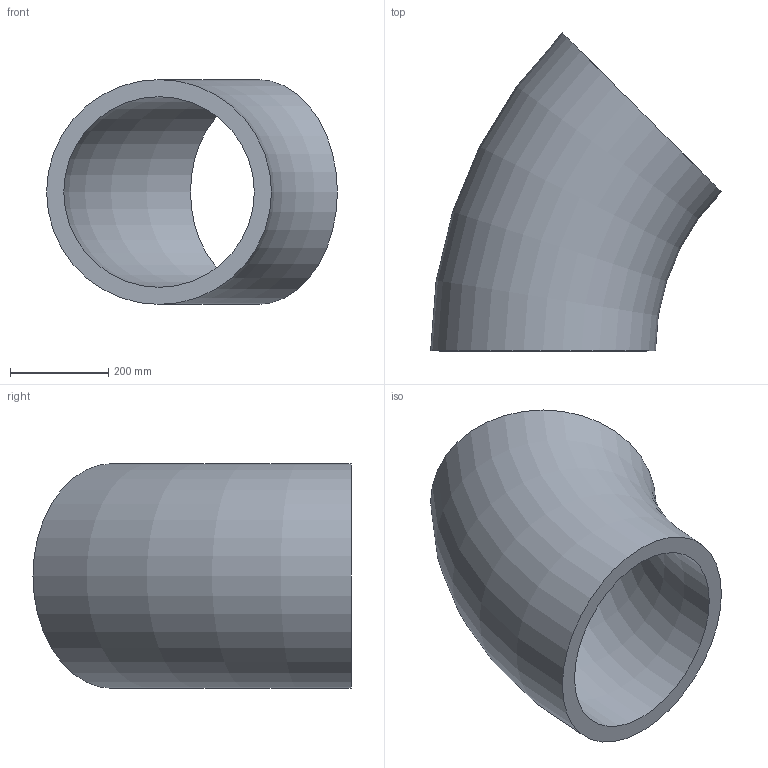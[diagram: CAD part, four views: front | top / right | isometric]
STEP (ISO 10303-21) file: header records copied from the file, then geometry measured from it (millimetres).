
FILE_DESCRIPTION(/* description */ (''),/* implementation_level */ '2;1');
FILE_NAME(/* name */ 'C:\Users\D\Documents\Inventor\HP\JIS\配管\エルボ ロング 45°\Sch120\Elbow45-long-450A-Sch120.stp',/* time_stamp */ '2022-06-08T17:04:43+09:00',/* author */ ('D'),/* organization */ (''),/* preprocessor_version */ 'ST-DEVELOPER v18',/* originating_system */ 'Autodesk Inventor 2020',/* authorisation */ '');
FILE_SCHEMA (('AUTOMOTIVE_DESIGN { 1 0 10303 214 3 1 1 }'));
Length unit declared in the file: millimetre
Products named in the file (1): Elbow-long-90-15A-SGP
Bounding box: 591.11 x 646.58 x 457.2 mm (x, y, z)
Volume: 24939270.4 mm3; surface area: 1521787.8 mm2
Topology: 1 solids, 1 shells, 4 faces, 10 edges, 8 vertices
Faces by surface type: torus 2, plane 2
Entity records: 181 total; most frequent: DIRECTION 30, CARTESIAN_POINT 23, ORIENTED_EDGE 20, AXIS2_PLACEMENT_3D 15, CIRCLE 10, EDGE_CURVE 10, VERTEX_POINT 8, EDGE_LOOP 6
